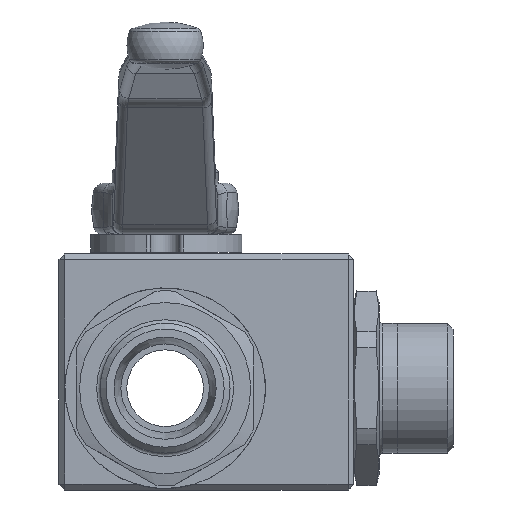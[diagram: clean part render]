
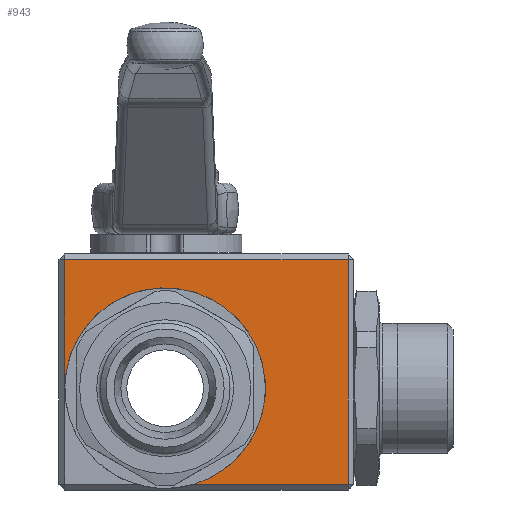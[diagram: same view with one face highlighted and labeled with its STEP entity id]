
A CAD part, front view. The second image highlights one B-rep face of the part: STEP entity #943.
In plain terms, the highlighted planar face has unit normal (0, -1, 0).
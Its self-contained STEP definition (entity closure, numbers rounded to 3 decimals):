
#943 = ADVANCED_FACE( '', ( #1967 ), #1968, .F. );
#1967 = FACE_OUTER_BOUND( '', #3713, .T. );
#1968 = PLANE( '', #3714 );
#3713 = EDGE_LOOP( '', ( #6257, #6258, #6259, #6260, #6261 ) );
#3714 = AXIS2_PLACEMENT_3D( '', #6262, #6263, #6264 );
#6257 = ORIENTED_EDGE( '', *, *, #8413, .T. );
#6258 = ORIENTED_EDGE( '', *, *, #7849, .T. );
#6259 = ORIENTED_EDGE( '', *, *, #8282, .T. );
#6260 = ORIENTED_EDGE( '', *, *, #8415, .T. );
#6261 = ORIENTED_EDGE( '', *, *, #8416, .T. );
#6262 = CARTESIAN_POINT( '', ( -18., -25., 22.75 ) );
#6263 = DIRECTION( '', ( 0., 1., 0. ) );
#6264 = DIRECTION( '', ( 0., 0., 1. ) );
#7849 = EDGE_CURVE( '', #9274, #9272, #9275, .T. );
#8282 = EDGE_CURVE( '', #9272, #9956, #9958, .T. );
#8413 = EDGE_CURVE( '', #10123, #9274, #10125, .T. );
#8415 = EDGE_CURVE( '', #9956, #9753, #10127, .T. );
#8416 = EDGE_CURVE( '', #9753, #10123, #10128, .T. );
#9272 = VERTEX_POINT( '', #11212 );
#9274 = VERTEX_POINT( '', #11215 );
#9275 = LINE( '', #11216, #11217 );
#9753 = VERTEX_POINT( '', #12357 );
#9956 = VERTEX_POINT( '', #12920 );
#9958 = LINE( '', #12923, #12924 );
#10123 = VERTEX_POINT( '', #13286 );
#10125 = CIRCLE( '', #13288, 17. );
#10127 = LINE( '', #13290, #13291 );
#10128 = LINE( '', #13292, #13293 );
#11212 = CARTESIAN_POINT( '', ( 31., -25., -16.25 ) );
#11215 = CARTESIAN_POINT( '', ( 4.994, -25., -16.25 ) );
#11216 = CARTESIAN_POINT( '', ( -18., -25., -16.25 ) );
#11217 = VECTOR( '', #14519, 1000. );
#12357 = CARTESIAN_POINT( '', ( -17., -25., 21.75 ) );
#12920 = CARTESIAN_POINT( '', ( 31., -25., 21.75 ) );
#12923 = CARTESIAN_POINT( '', ( 31., -25., 22.75 ) );
#12924 = VECTOR( '', #15070, 1000. );
#13286 = CARTESIAN_POINT( '', ( -17., -25., 0. ) );
#13288 = AXIS2_PLACEMENT_3D( '', #15226, #15227, #15228 );
#13290 = CARTESIAN_POINT( '', ( -18., -25., 21.75 ) );
#13291 = VECTOR( '', #15229, 1000. );
#13292 = CARTESIAN_POINT( '', ( -17., -25., 22.75 ) );
#13293 = VECTOR( '', #15230, 1000. );
#14519 = DIRECTION( '', ( 1., 0., 0. ) );
#15070 = DIRECTION( '', ( 0., 0., 1. ) );
#15226 = CARTESIAN_POINT( '', ( 0., -25., 0. ) );
#15227 = DIRECTION( '', ( 0., 1., 0. ) );
#15228 = DIRECTION( '', ( 1., 0., 0. ) );
#15229 = DIRECTION( '', ( -1., 0., 0. ) );
#15230 = DIRECTION( '', ( 0., 0., -1. ) );
